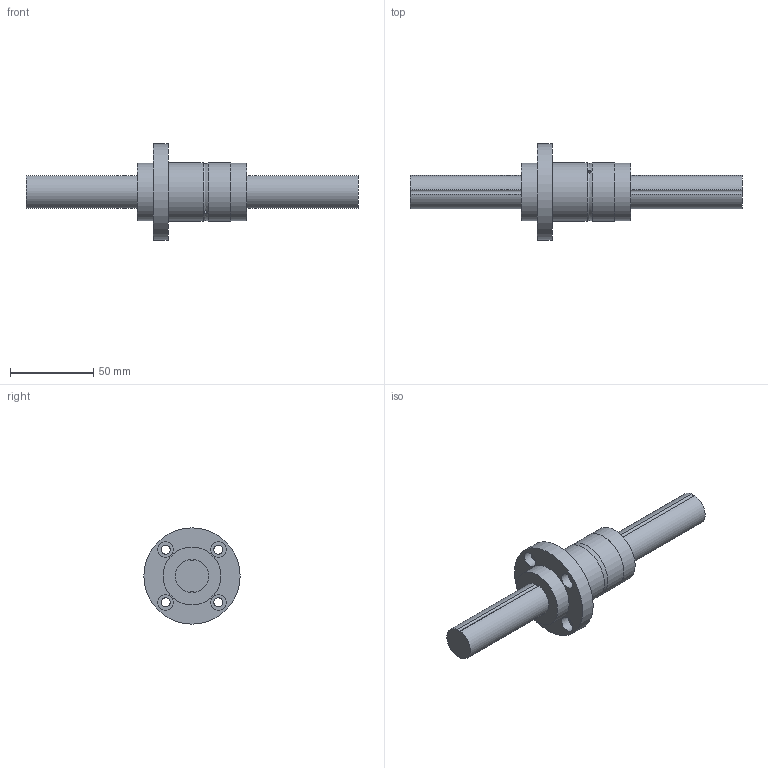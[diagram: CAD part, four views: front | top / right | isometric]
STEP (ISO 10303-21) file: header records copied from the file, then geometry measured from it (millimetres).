
FILE_DESCRIPTION((''),'2;1');
FILE_NAME('C:\Documents and Settings\土屋\My Documents\土屋移動用フォルダ\製品 (図面)\カタログ用3D\ボールスプライン\BSPF\BSPF20.stp','2015-02-23T13:31:59',('y'),(''),'Autodesk Inventor 11','Autodesk Inventor 11','');
FILE_SCHEMA(('AUTOMOTIVE_DESIGN { 1 0 10303 214 1 1 1 1 }'));
Length unit declared in the file: millimetre
Products named in the file (3): BSPF20; BSP20軸; BSPF20ナット
Assembly tree (2 placements, depth 2):
  BSPF20
    BSP20軸
    BSPF20ナット
Bounding box: 200 x 58 x 58 mm (x, y, z)
Volume: 118180.3 mm3; surface area: 30854.7 mm2
Topology: 2 solids, 2 shells, 37 faces, 76 edges, 52 vertices
Faces by surface type: bspline 15, cylinder 14, plane 8
Full cylindrical faces by diameter (mm): 2 x1, 34.8 x2, 35 x2, 58 x1
Entity records: 1233 total; most frequent: CARTESIAN_POINT 466, DIRECTION 150, ORIENTED_EDGE 108, EDGE_LOOP 72, AXIS2_PLACEMENT_3D 71, EDGE_CURVE 54, VERTEX_POINT 46, CIRCLE 44
